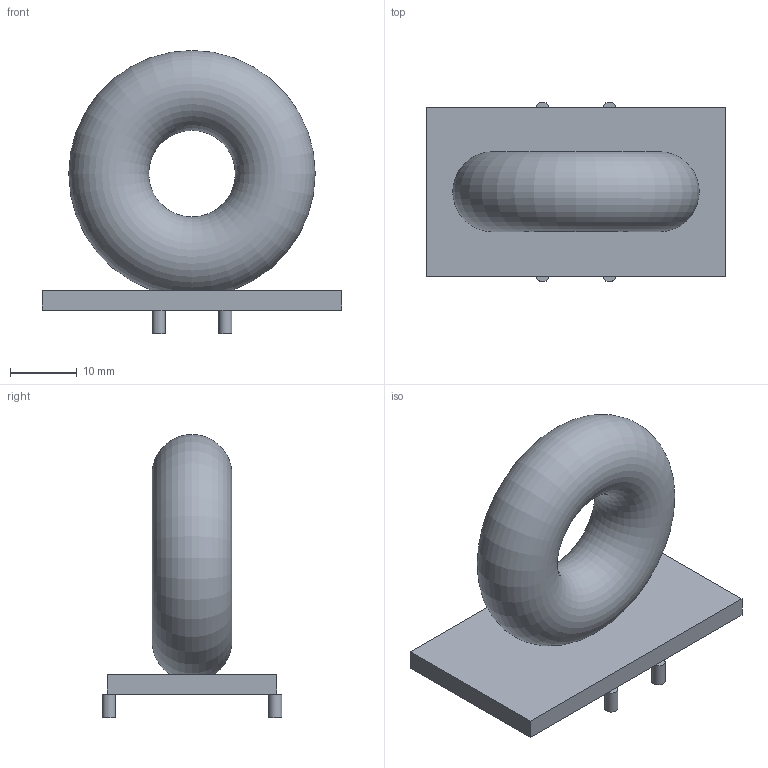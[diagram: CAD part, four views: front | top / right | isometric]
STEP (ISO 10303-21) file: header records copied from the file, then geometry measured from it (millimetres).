
FILE_DESCRIPTION(('Open CASCADE Model'),'2;1');
FILE_NAME('Open CASCADE Shape Model','2000-01-01T00:00:00',('Author'),( 'Open CASCADE'),'Open CASCADE STEP processor 7.9','Open CASCADE 7.9' ,'Unknown');
FILE_SCHEMA(('AUTOMOTIVE_DESIGN { 1 0 10303 214 1 1 1 1 }'));
Length unit declared in the file: millimetre
Products named in the file (7): Open CASCADE STEP translator 7.9 1; Open CASCADE STEP translator 7.9 1.1; Open CASCADE STEP translator 7.9 1.2; Open CASCADE STEP translator 7.9 1.3; Open CASCADE STEP translator 7.9 1.4; Open CASCADE STEP translator 7.9 1.5; Open CASCADE STEP translator 7.9 1.6
Assembly tree (6 placements, depth 2):
  Open CASCADE STEP translator 7.9 1
    Open CASCADE STEP translator 7.9 1.1
    Open CASCADE STEP translator 7.9 1.2
    Open CASCADE STEP translator 7.9 1.3
    Open CASCADE STEP translator 7.9 1.4
    Open CASCADE STEP translator 7.9 1.5
    Open CASCADE STEP translator 7.9 1.6
Bounding box: 45 x 27 x 42.5 mm (x, y, z)
Volume: 12369.1 mm3; surface area: 5792 mm2
Topology: 6 solids, 6 shells, 19 faces, 26 edges, 17 vertices
Faces by surface type: plane 14, cylinder 4, torus 1
Full cylindrical faces by diameter (mm): 2 x4
Entity records: 852 total; most frequent: DIRECTION 140, CARTESIAN_POINT 121, LINE 60, VECTOR 60, ORIENTED_EDGE 52, PCURVE 52, DEFINITIONAL_REPRESENTATION 52, AXIS2_PLACEMENT_3D 36
